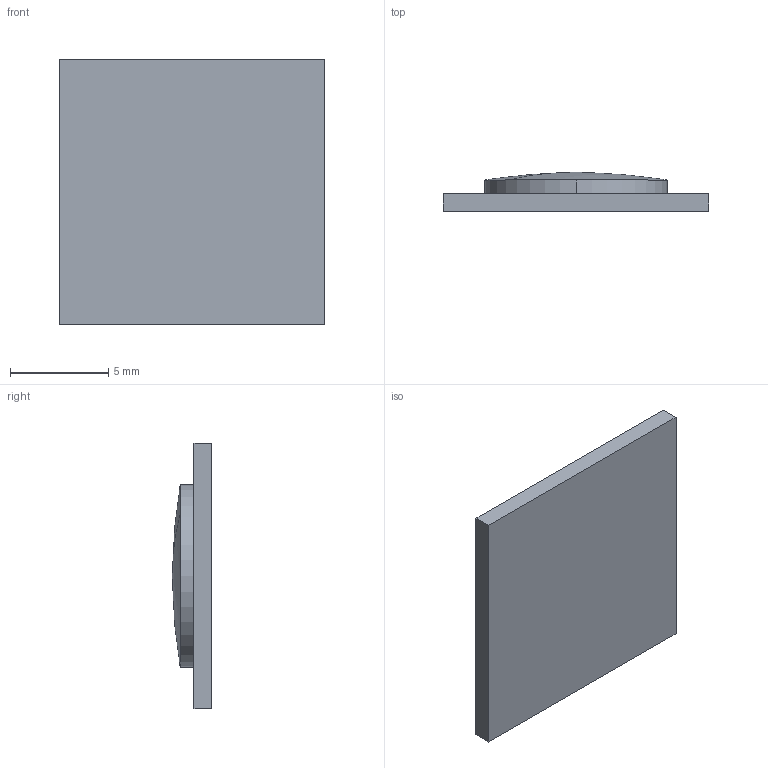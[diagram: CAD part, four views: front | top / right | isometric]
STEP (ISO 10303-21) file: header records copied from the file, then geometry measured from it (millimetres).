
FILE_DESCRIPTION (( 'STEP AP214' ), '1' );
FILE_NAME ('UD220_3D.STEP', '2025-03-14T09:38:46', ( '' ), ( '' ), 'SwSTEP 2.0', 'SolidWorks 2023', '' );
FILE_SCHEMA (( 'AUTOMOTIVE_DESIGN' ));
Length unit declared in the file: millimetre
Products named in the file (3): UD220_resin; UD220_3D
Assembly tree (2 placements, depth 2):
  UD220_3D
    UD220_3D
    UD220_resin
Bounding box: 13.5 x 2 x 13.5 mm (x, y, z)
Volume: 224.8 mm3; surface area: 601.1 mm2
Topology: 2 solids, 2 shells, 92 faces, 226 edges, 151 vertices
Faces by surface type: plane 52, cylinder 38, sphere 2
Entity records: 2826 total; most frequent: DIRECTION 500, CARTESIAN_POINT 474, ORIENTED_EDGE 452, EDGE_CURVE 226, AXIS2_PLACEMENT_3D 177, VERTEX_POINT 151, LINE 146, VECTOR 146
